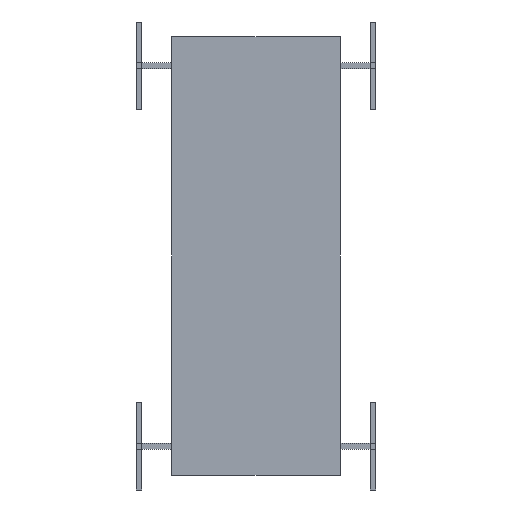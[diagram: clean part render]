
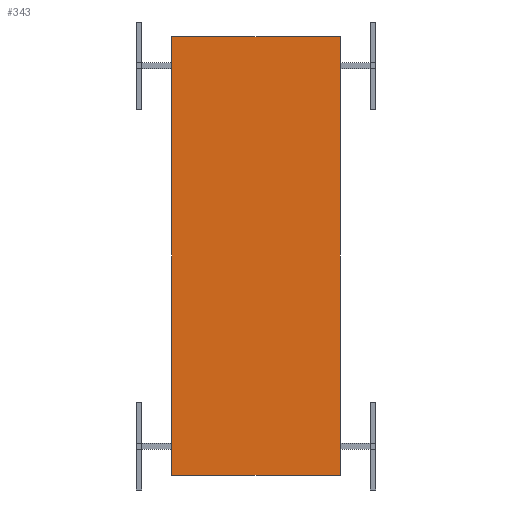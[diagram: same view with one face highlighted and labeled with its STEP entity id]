
A CAD part, front view. The second image highlights one B-rep face of the part: STEP entity #343.
In plain terms, the highlighted planar face has unit normal (0, -1, 0).
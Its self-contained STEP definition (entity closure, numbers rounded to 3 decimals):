
#127 = EDGE_CURVE('',#128,#130,#132,.T.);
#128 = VERTEX_POINT('',#129);
#129 = CARTESIAN_POINT('',(-23.,0.,0.));
#130 = VERTEX_POINT('',#131);
#131 = CARTESIAN_POINT('',(-23.,0.,120.));
#132 = SURFACE_CURVE('',#133,(#137,#149),.PCURVE_S1.);
#133 = LINE('',#134,#135);
#134 = CARTESIAN_POINT('',(-23.,0.,0.));
#135 = VECTOR('',#136,1.);
#136 = DIRECTION('',(0.,0.,1.));
#137 = PCURVE('',#138,#143);
#138 = PLANE('',#139);
#139 = AXIS2_PLACEMENT_3D('',#140,#141,#142);
#140 = CARTESIAN_POINT('',(-23.,0.,0.));
#141 = DIRECTION('',(1.,0.,0.));
#142 = DIRECTION('',(0.,0.,1.));
#143 = DEFINITIONAL_REPRESENTATION('',(#144),#148);
#144 = LINE('',#145,#146);
#145 = CARTESIAN_POINT('',(0.,0.));
#146 = VECTOR('',#147,1.);
#147 = DIRECTION('',(1.,0.));
#148 = ( GEOMETRIC_REPRESENTATION_CONTEXT(2) 
PARAMETRIC_REPRESENTATION_CONTEXT() REPRESENTATION_CONTEXT('2D SPACE',''
  ) );
#149 = PCURVE('',#150,#155);
#150 = PLANE('',#151);
#151 = AXIS2_PLACEMENT_3D('',#152,#153,#154);
#152 = CARTESIAN_POINT('',(-23.,0.,0.));
#153 = DIRECTION('',(0.,1.,0.));
#154 = DIRECTION('',(0.,0.,1.));
#155 = DEFINITIONAL_REPRESENTATION('',(#156),#160);
#156 = LINE('',#157,#158);
#157 = CARTESIAN_POINT('',(0.,0.));
#158 = VECTOR('',#159,1.);
#159 = DIRECTION('',(1.,0.));
#160 = ( GEOMETRIC_REPRESENTATION_CONTEXT(2) 
PARAMETRIC_REPRESENTATION_CONTEXT() REPRESENTATION_CONTEXT('2D SPACE',''
  ) );
#178 = PLANE('',#179);
#179 = AXIS2_PLACEMENT_3D('',#180,#181,#182);
#180 = CARTESIAN_POINT('',(-23.,0.,0.));
#181 = DIRECTION('',(0.,0.,1.));
#182 = DIRECTION('',(1.,0.,0.));
#232 = PLANE('',#233);
#233 = AXIS2_PLACEMENT_3D('',#234,#235,#236);
#234 = CARTESIAN_POINT('',(-23.,0.,120.));
#235 = DIRECTION('',(0.,0.,1.));
#236 = DIRECTION('',(1.,0.,0.));
#247 = EDGE_CURVE('',#248,#250,#252,.T.);
#248 = VERTEX_POINT('',#249);
#249 = CARTESIAN_POINT('',(23.,0.,0.));
#250 = VERTEX_POINT('',#251);
#251 = CARTESIAN_POINT('',(23.,0.,120.));
#252 = SURFACE_CURVE('',#253,(#257,#269),.PCURVE_S1.);
#253 = LINE('',#254,#255);
#254 = CARTESIAN_POINT('',(23.,0.,0.));
#255 = VECTOR('',#256,1.);
#256 = DIRECTION('',(0.,0.,1.));
#257 = PCURVE('',#258,#263);
#258 = PLANE('',#259);
#259 = AXIS2_PLACEMENT_3D('',#260,#261,#262);
#260 = CARTESIAN_POINT('',(23.,0.,0.));
#261 = DIRECTION('',(1.,0.,0.));
#262 = DIRECTION('',(0.,0.,1.));
#263 = DEFINITIONAL_REPRESENTATION('',(#264),#268);
#264 = LINE('',#265,#266);
#265 = CARTESIAN_POINT('',(0.,0.));
#266 = VECTOR('',#267,1.);
#267 = DIRECTION('',(1.,0.));
#268 = ( GEOMETRIC_REPRESENTATION_CONTEXT(2) 
PARAMETRIC_REPRESENTATION_CONTEXT() REPRESENTATION_CONTEXT('2D SPACE',''
  ) );
#269 = PCURVE('',#150,#270);
#270 = DEFINITIONAL_REPRESENTATION('',(#271),#275);
#271 = LINE('',#272,#273);
#272 = CARTESIAN_POINT('',(0.,46.));
#273 = VECTOR('',#274,1.);
#274 = DIRECTION('',(1.,0.));
#275 = ( GEOMETRIC_REPRESENTATION_CONTEXT(2) 
PARAMETRIC_REPRESENTATION_CONTEXT() REPRESENTATION_CONTEXT('2D SPACE',''
  ) );
#343 = ADVANCED_FACE('',(#344),#150,.F.);
#344 = FACE_BOUND('',#345,.F.);
#345 = EDGE_LOOP('',(#346,#367,#368,#389));
#346 = ORIENTED_EDGE('',*,*,#347,.F.);
#347 = EDGE_CURVE('',#128,#248,#348,.T.);
#348 = SURFACE_CURVE('',#349,(#353,#360),.PCURVE_S1.);
#349 = LINE('',#350,#351);
#350 = CARTESIAN_POINT('',(-23.,0.,0.));
#351 = VECTOR('',#352,1.);
#352 = DIRECTION('',(1.,0.,0.));
#353 = PCURVE('',#150,#354);
#354 = DEFINITIONAL_REPRESENTATION('',(#355),#359);
#355 = LINE('',#356,#357);
#356 = CARTESIAN_POINT('',(0.,0.));
#357 = VECTOR('',#358,1.);
#358 = DIRECTION('',(0.,1.));
#359 = ( GEOMETRIC_REPRESENTATION_CONTEXT(2) 
PARAMETRIC_REPRESENTATION_CONTEXT() REPRESENTATION_CONTEXT('2D SPACE',''
  ) );
#360 = PCURVE('',#178,#361);
#361 = DEFINITIONAL_REPRESENTATION('',(#362),#366);
#362 = LINE('',#363,#364);
#363 = CARTESIAN_POINT('',(0.,0.));
#364 = VECTOR('',#365,1.);
#365 = DIRECTION('',(1.,0.));
#366 = ( GEOMETRIC_REPRESENTATION_CONTEXT(2) 
PARAMETRIC_REPRESENTATION_CONTEXT() REPRESENTATION_CONTEXT('2D SPACE',''
  ) );
#367 = ORIENTED_EDGE('',*,*,#127,.T.);
#368 = ORIENTED_EDGE('',*,*,#369,.T.);
#369 = EDGE_CURVE('',#130,#250,#370,.T.);
#370 = SURFACE_CURVE('',#371,(#375,#382),.PCURVE_S1.);
#371 = LINE('',#372,#373);
#372 = CARTESIAN_POINT('',(-23.,0.,120.));
#373 = VECTOR('',#374,1.);
#374 = DIRECTION('',(1.,0.,0.));
#375 = PCURVE('',#150,#376);
#376 = DEFINITIONAL_REPRESENTATION('',(#377),#381);
#377 = LINE('',#378,#379);
#378 = CARTESIAN_POINT('',(120.,0.));
#379 = VECTOR('',#380,1.);
#380 = DIRECTION('',(0.,1.));
#381 = ( GEOMETRIC_REPRESENTATION_CONTEXT(2) 
PARAMETRIC_REPRESENTATION_CONTEXT() REPRESENTATION_CONTEXT('2D SPACE',''
  ) );
#382 = PCURVE('',#232,#383);
#383 = DEFINITIONAL_REPRESENTATION('',(#384),#388);
#384 = LINE('',#385,#386);
#385 = CARTESIAN_POINT('',(0.,0.));
#386 = VECTOR('',#387,1.);
#387 = DIRECTION('',(1.,0.));
#388 = ( GEOMETRIC_REPRESENTATION_CONTEXT(2) 
PARAMETRIC_REPRESENTATION_CONTEXT() REPRESENTATION_CONTEXT('2D SPACE',''
  ) );
#389 = ORIENTED_EDGE('',*,*,#247,.F.);
